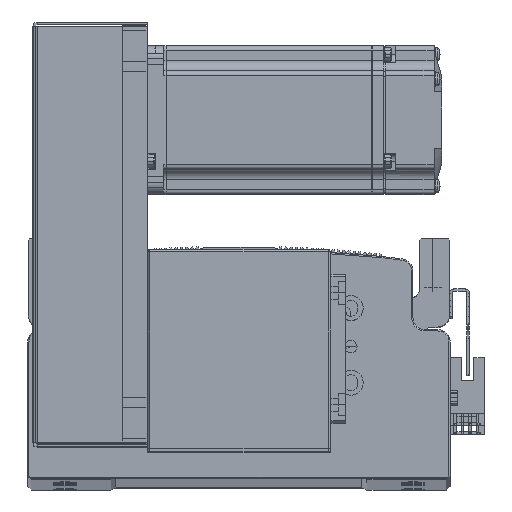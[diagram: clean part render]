
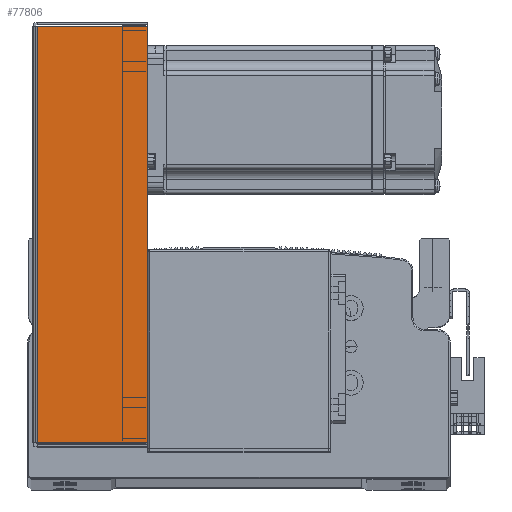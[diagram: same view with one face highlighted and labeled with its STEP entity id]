
A CAD part, top view. The second image highlights one B-rep face of the part: STEP entity #77806.
In plain terms, the highlighted planar face has unit normal (0, 0, 1) as drawn and (0, 0, -1) by its records, which use the part's own axes.
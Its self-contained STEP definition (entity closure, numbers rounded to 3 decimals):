
#9391 = CARTESIAN_POINT ( 'NONE',  ( -83.793, 0.737, -40.5 ) ) ;
#13937 = CARTESIAN_POINT ( 'NONE',  ( 83.793, 45., -40.5 ) ) ;
#13967 = CARTESIAN_POINT ( 'NONE',  ( 83.793, 0.737, -40.5 ) ) ;
#13993 = CARTESIAN_POINT ( 'NONE',  ( -83.793, 45., -40.5 ) ) ;
#19322 = AXIS2_PLACEMENT_3D ( 'NONE', #28324, #28256, #28325 ) ;
#25088 = FACE_OUTER_BOUND ( 'NONE', #68759, .T. ) ;
#28256 = DIRECTION ( 'NONE',  ( 0., 0., 1. ) ) ;
#28279 = PLANE ( 'NONE',  #19322 ) ;
#28324 = CARTESIAN_POINT ( 'NONE',  ( 0., 0., -40.5 ) ) ;
#28325 = DIRECTION ( 'NONE',  ( 0., -1., 0. ) ) ;
#48546 = LINE ( 'NONE', #50160, #48620 ) ;
#48565 = VECTOR ( 'NONE', #50048, 1000. ) ;
#48603 = LINE ( 'NONE', #50162, #48645 ) ;
#48620 = VECTOR ( 'NONE', #50165, 1000. ) ;
#48628 = LINE ( 'NONE', #50226, #48644 ) ;
#48644 = VECTOR ( 'NONE', #50230, 1000. ) ;
#48645 = VECTOR ( 'NONE', #50195, 1000. ) ;
#50041 = CARTESIAN_POINT ( 'NONE',  ( -83.793, 0., -40.5 ) ) ;
#50048 = DIRECTION ( 'NONE',  ( 0., 1., 0. ) ) ;
#50160 = CARTESIAN_POINT ( 'NONE',  ( 83.793, 0., -40.5 ) ) ;
#50162 = CARTESIAN_POINT ( 'NONE',  ( 0., 0.737, -40.5 ) ) ;
#50165 = DIRECTION ( 'NONE',  ( 0., 1., 0. ) ) ;
#50195 = DIRECTION ( 'NONE',  ( 1., 0., 0. ) ) ;
#50226 = CARTESIAN_POINT ( 'NONE',  ( 84.5, 45., -40.5 ) ) ;
#50230 = DIRECTION ( 'NONE',  ( 1., 0., 0. ) ) ;
#53536 = EDGE_CURVE ( 'NONE', #60679, #60603, #86072, .T. ) ;
#53578 = EDGE_CURVE ( 'NONE', #60533, #60553, #48546, .T. ) ;
#53580 = EDGE_CURVE ( 'NONE', #60679, #60533, #48603, .T. ) ;
#53591 = EDGE_CURVE ( 'NONE', #60603, #60553, #48628, .T. ) ;
#60533 = VERTEX_POINT ( 'NONE', #13967 ) ;
#60553 = VERTEX_POINT ( 'NONE', #13937 ) ;
#60603 = VERTEX_POINT ( 'NONE', #13993 ) ;
#60679 = VERTEX_POINT ( 'NONE', #9391 ) ;
#66243 = ORIENTED_EDGE ( 'NONE', *, *, #53591, .T. ) ;
#66251 = ORIENTED_EDGE ( 'NONE', *, *, #53536, .T. ) ;
#66279 = ORIENTED_EDGE ( 'NONE', *, *, #53580, .F. ) ;
#66331 = ORIENTED_EDGE ( 'NONE', *, *, #53578, .F. ) ;
#68759 = EDGE_LOOP ( 'NONE', ( #66279, #66251, #66243, #66331 ) ) ;
#77806 = ADVANCED_FACE ( 'NONE', ( #25088 ), #28279, .F. ) ;
#86072 = LINE ( 'NONE', #50041, #48565 ) ;
